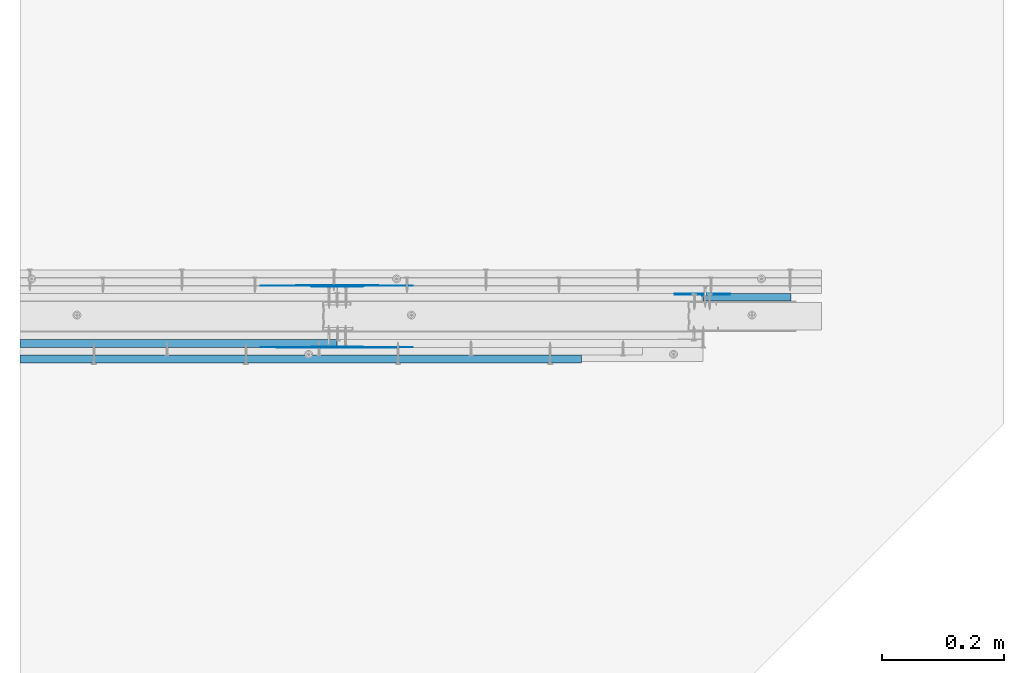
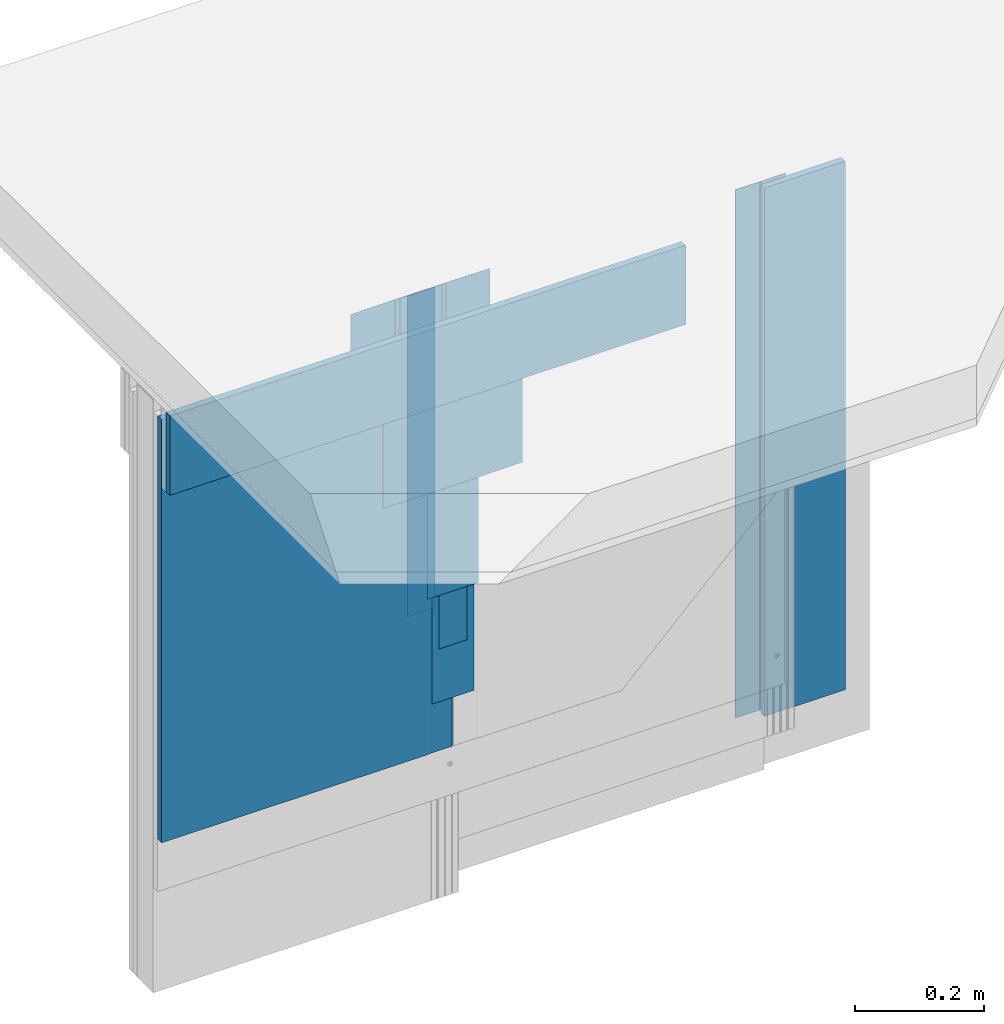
# One storey, part 3 of 60: 12 walls.
"""IFC2X3 building model written with IfcOpenShell, lengths in millimetres."""

from ifc_helpers import new_model, entity, si_unit, converted_unit, direction, frame, origin, origin_with_axes, place, context, project, spatial, faceted_brep, element, save


model = new_model("IFC2X3")

# Units and contexts
model_context = context("Model", 3, precision=1e-05, world=origin(), true_north=direction((0.0, 1.0, 0.0)))
ifc_project = project(units=[si_unit("LENGTHUNIT", "METRE", prefix="MILLI"), si_unit("AREAUNIT", "SQUARE_METRE"), si_unit("VOLUMEUNIT", "CUBIC_METRE"), converted_unit("PLANEANGLEUNIT", "DEGREE", entity("IfcPlaneAngleMeasure", 0.01745), si_unit("PLANEANGLEUNIT", "RADIAN"), dimensions=[0, 0, 0, 0, 0, 0, 0]), si_unit("SOLIDANGLEUNIT", "STERADIAN"), si_unit("MASSUNIT", "GRAM"), si_unit("TIMEUNIT", "SECOND"), si_unit("THERMODYNAMICTEMPERATUREUNIT", "DEGREE_CELSIUS"), si_unit("LUMINOUSINTENSITYUNIT", "LUMEN")], contexts=[model_context])

# Site, building, storey
site_placement = place(None, origin_with_axes())
site = spatial("IfcSite", under=ifc_project, at=site_placement, Name="Default Site", CompositionType="ELEMENT")
building_placement = place(site_placement, origin_with_axes())
building = spatial("IfcBuilding", under=site, at=building_placement, Name="Default Building", CompositionType="ELEMENT")
storey_placement = place(building_placement, origin_with_axes())
storey = spatial("IfcBuildingStorey", under=building, at=storey_placement, Name="Default Building Storey", CompositionType="ELEMENT", Elevation=0.0)

# Walls
wall_1_placement = place(storey_placement, frame((3247.843862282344, 2022.140922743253, 88.64515101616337), z_axis=(0.0, 0.0, -1.0), x_axis=(1.0, 0.0, 0.0)))
element("IfcWall", 1, at=wall_1_placement, inside=storey, Name="Płyta gipsowo-kartonowa RIGIPS PRO (4PRO™)", context=model_context, shape_type="Brep", body=[
    faceted_brep([(145.1967559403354, -12.49999999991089, -277.7777289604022), (145.1967559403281, 9.059988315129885e-11, -277.7777289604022), (145.1967559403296, 9.023892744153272e-11, -1277.779310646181), (145.1967559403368, -12.49999999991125, -1277.779310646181), (0.0, 0.0, -277.7777289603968), (44.99999999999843, -12.50000000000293, -277.7777289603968), (40.99999999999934, -11.50000000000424, -277.7777289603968), (0.9999999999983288, -11.5000000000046, -277.7777289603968), (0.7411809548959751, -11.46592582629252, -277.7777289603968), (0.4999999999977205, -11.3660254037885, -277.7777289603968), (0.2928932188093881, -11.20710678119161, -277.7777289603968), (0.1339745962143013, -11.00000000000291, -277.7777289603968), (0.03407417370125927, -10.7588190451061, -277.7777289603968), (-2.887645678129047e-12, -10.50000000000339, -277.7777289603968), (44.99999999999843, -12.50000000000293, -1277.779310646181), (40.99999999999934, -11.50000000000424, -1277.779310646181), (0.9999999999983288, -11.5000000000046, -1277.779310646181), (0.7411809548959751, -11.46592582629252, -1277.779310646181), (0.4999999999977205, -11.3660254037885, -1277.779310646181), (0.2928932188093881, -11.20710678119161, -1277.779310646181), (0.1339745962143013, -11.00000000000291, -1277.779310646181), (0.03407417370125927, -10.7588190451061, -1277.779310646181), (-2.887645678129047e-12, -10.50000000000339, -1277.779310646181), (0.0, 0.0, -1277.779310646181)], [[[0, 1, 2, 3]], [[4, 1, 0, 5, 6, 7, 8, 9, 10, 11, 12, 13]], [[0, 3, 14, 5]], [[6, 5, 14, 15]], [[7, 6, 15, 16]], [[8, 7, 16, 17]], [[9, 8, 17, 18]], [[10, 9, 18, 19]], [[11, 10, 19, 20]], [[12, 11, 20, 21]], [[13, 12, 21, 22]], [[4, 13, 22, 23]], [[23, 2, 1, 4]], [[14, 3, 2, 23, 22, 21, 20, 19, 18, 17, 16, 15]]]),
])
wall_2_placement = place(storey_placement, frame((3984.303078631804, -1356.465798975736, 1079.246212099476), z_axis=(0.0, 0.0, -1.0), x_axis=(1.0, 0.0, 0.0)))
element("IfcWall", 2, at=wall_2_placement, inside=storey, Name="Dedykowana masa szpachlowa Rigips - konstrukcyjna", context=model_context, shape_type="Brep", body=[
    faceted_brep([(-737.4838396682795, -3387.669590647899, 706.8233321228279), (-737.4592163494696, -3387.356721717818, 706.8233321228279), (-737.4345930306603, -3387.669590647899, 706.8233321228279), (-737.3613293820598, -3387.974755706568, 706.8233321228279), (-737.2412293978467, -3388.264702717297, 706.8233321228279), (-737.0772503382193, -3388.532292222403, 706.8233321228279), (-736.8734299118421, -3388.770935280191, 706.8233321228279), (-736.6347868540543, -3388.974755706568, 706.8233321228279), (-736.3671973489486, -3389.138734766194, 706.8233321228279), (-736.0772503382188, -3389.258834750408, 706.8233321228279), (-735.7720852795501, -3389.332098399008, 706.8233321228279), (-735.4592163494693, -3389.356721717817, 706.8233321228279), (-692.4592163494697, -3389.356721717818, 706.8233321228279), (-691.4592163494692, -3390.556721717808, 706.8233321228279), (-782.4592163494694, -3390.556721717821, 706.8233321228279), (-782.4592163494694, -3389.356721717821, 706.8233321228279), (-739.4592163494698, -3389.356721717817, 706.8233321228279), (-739.146347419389, -3389.332098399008, 706.8233321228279), (-738.8411823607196, -3389.258834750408, 706.8233321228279), (-738.5512353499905, -3389.138734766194, 706.8233321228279), (-738.2836458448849, -3388.974755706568, 706.8233321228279), (-738.045002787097, -3388.770935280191, 706.8233321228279), (-737.8411823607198, -3388.532292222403, 706.8233321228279), (-737.6772033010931, -3388.264702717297, 706.8233321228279), (-737.5571033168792, -3387.974755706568, 706.8233321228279), (-691.4592163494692, -3390.556721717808, -293.178249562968), (-692.4592163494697, -3389.356721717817, -293.178249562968), (-735.4592163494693, -3389.356721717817, -293.178249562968), (-735.7720852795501, -3389.332098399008, -293.178249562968), (-736.0772503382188, -3389.258834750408, -293.178249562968), (-736.3671973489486, -3389.138734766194, -293.178249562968), (-736.6347868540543, -3388.974755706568, -293.178249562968), (-736.8734299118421, -3388.77093528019, -293.178249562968), (-737.0772503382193, -3388.532292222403, -293.178249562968), (-737.2412293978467, -3388.264702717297, -293.178249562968), (-737.3613293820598, -3387.974755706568, -293.178249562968), (-737.4345930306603, -3387.669590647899, -293.178249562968), (-737.4592163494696, -3387.356721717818, -293.178249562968), (-737.4838396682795, -3387.669590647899, -293.178249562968), (-737.5571033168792, -3387.974755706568, -293.178249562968), (-737.6772033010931, -3388.264702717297, -293.178249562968), (-737.8411823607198, -3388.532292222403, -293.178249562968), (-738.045002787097, -3388.77093528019, -293.178249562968), (-738.2836458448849, -3388.974755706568, -293.178249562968), (-738.5512353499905, -3389.138734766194, -293.178249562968), (-738.8411823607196, -3389.258834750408, -293.178249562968), (-739.146347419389, -3389.332098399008, -293.178249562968), (-739.4592163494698, -3389.356721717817, -293.178249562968), (-782.4592163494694, -3389.356721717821, -293.178249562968), (-782.4592163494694, -3390.556721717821, -293.178249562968)], [[[0, 1, 2, 3, 4, 5, 6, 7, 8, 9, 10, 11, 12, 13, 14, 15, 16, 17, 18, 19, 20, 21, 22, 23, 24]], [[25, 26, 27, 28, 29, 30, 31, 32, 33, 34, 35, 36, 37, 38, 39, 40, 41, 42, 43, 44, 45, 46, 47, 48, 49]], [[26, 12, 11, 27]], [[10, 9, 29, 28]], [[28, 27, 11, 10]], [[8, 30, 29, 9]], [[7, 6, 32, 31]], [[31, 30, 8, 7]], [[5, 4, 34, 33]], [[33, 32, 6, 5]], [[3, 35, 34, 4]], [[2, 1, 37, 36]], [[36, 35, 3, 2]], [[0, 24, 39, 38]], [[38, 37, 1, 0]], [[23, 40, 39, 24]], [[22, 21, 42, 41]], [[41, 40, 23, 22]], [[20, 19, 44, 43]], [[43, 42, 21, 20]], [[18, 45, 44, 19]], [[17, 16, 47, 46]], [[46, 45, 18, 17]], [[47, 16, 15, 48]], [[48, 15, 14, 49]], [[49, 14, 13, 25]], [[25, 13, 12, 26]]]),
])
wall_3_placement = place(storey_placement, frame((2646.242430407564, 1958.680077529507, 316.4228799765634), z_axis=(0.0, 0.0, -1.0), x_axis=(-1.0, 6.389333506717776e-13, 0.0)))
element("IfcWall", 3, at=wall_3_placement, inside=storey, Name="Płyta gipsowo-kartonowa RIGIPS PRO (4PRO™)", context=model_context, shape_type="Brep", body=[
    faceted_brep([(521.2172969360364, -12.49999999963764, -249.9999999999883), (521.2172969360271, 3.346059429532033e-10, -249.9999999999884), (521.217296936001, 3.313573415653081e-10, -1050.001581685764), (521.2172969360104, -12.49999999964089, -1050.001581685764), (44.99999999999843, -12.50000000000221, -249.9999999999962), (40.99999999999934, -11.50000000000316, -249.9999999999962), (0.9999999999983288, -11.50000000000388, -249.9999999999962), (0.7411809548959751, -11.46592582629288, -249.9999999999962), (0.4999999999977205, -11.3660254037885, -249.9999999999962), (0.29289321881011, -11.20710678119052, -249.9999999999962), (0.1339745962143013, -11.00000000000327, -249.9999999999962), (0.03407417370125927, -10.7588190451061, -249.9999999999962), (-1.443822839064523e-12, -10.50000000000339, -249.9999999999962), (0.0, 0.0, -249.9999999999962), (44.99999999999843, -12.50000000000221, -1050.001581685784), (40.99999999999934, -11.50000000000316, -1050.001581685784), (0.9999999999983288, -11.50000000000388, -1050.001581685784), (0.7411809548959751, -11.46592582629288, -1050.001581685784), (0.4999999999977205, -11.3660254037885, -1050.001581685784), (0.29289321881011, -11.20710678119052, -1050.001581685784), (0.1339745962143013, -11.00000000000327, -1050.001581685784), (0.03407417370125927, -10.7588190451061, -1050.001581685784), (-1.443822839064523e-12, -10.50000000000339, -1050.001581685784), (0.0, 0.0, -1050.001581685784)], [[[0, 1, 2, 3]], [[0, 4, 5, 6, 7, 8, 9, 10, 11, 12, 13, 1]], [[3, 14, 4, 0]], [[5, 4, 14, 15]], [[6, 5, 15, 16]], [[7, 6, 16, 17]], [[8, 7, 17, 18]], [[9, 8, 18, 19]], [[10, 9, 19, 20]], [[11, 10, 20, 21]], [[12, 11, 21, 22]], [[13, 12, 22, 23]], [[2, 1, 13, 23]], [[14, 3, 2, 23, 22, 21, 20, 19, 18, 17, 16, 15]]]),
])
wall_4_placement = place(storey_placement, frame((-1.489985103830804e-06, 3993.321000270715, -4.000007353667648), z_axis=(0.0, 0.0, 1.0), x_axis=(1.0, 0.0, 0.0)))
element("IfcWall", 4, at=wall_4_placement, inside=storey, Name="Dedykowana masa szpachlowa Rigips - konstrukcyjna", context=model_context, shape_type="Brep", body=[
    faceted_brep([(2672.242429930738, -1946.980077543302, 864.4600646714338), (2672.242429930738, -1946.780077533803, 1370.424463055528), (2672.242429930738, -1946.780077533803, 864.4600646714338), (2672.242429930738, -1946.980077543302, 1370.424463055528), (2684.242431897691, -1947.180077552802, 864.4600646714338), (2684.242431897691, -1946.980077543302, 1370.424463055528), (2684.242431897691, -1946.980077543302, 864.4600646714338), (2684.242431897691, -1947.180077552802, 1370.424463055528), (2604.575765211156, -1947.180077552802, 864.4600646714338), (2609.242428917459, -1947.180077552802, 1370.424463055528), (2604.575765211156, -1947.180077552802, 1370.424463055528), (2609.242428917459, -1947.180077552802, 864.4600646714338), (2622.242431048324, -1946.980077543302, 864.4600646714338), (2609.242428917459, -1946.980077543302, 1370.424463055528), (2609.242428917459, -1946.980077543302, 864.4600646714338), (2622.242431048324, -1946.980077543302, 1370.424463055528), (2622.242431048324, -1946.780077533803, 864.4600646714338), (2622.242431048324, -1946.780077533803, 1370.424463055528), (2692.242429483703, -1946.180077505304, 1370.424463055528), (2601.242431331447, -1946.180077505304, 864.4600646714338), (2601.242431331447, -1946.180077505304, 1370.424463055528), (2692.242429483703, -1946.180077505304, 864.4600646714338), (2688.242428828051, -1947.180077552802, 864.4600646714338), (2688.242428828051, -1947.180077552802, 1370.424463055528)], [[[0, 1, 2]], [[0, 3, 1]], [[4, 5, 6]], [[4, 7, 5]], [[8, 9, 10]], [[8, 11, 9]], [[12, 13, 14]], [[12, 15, 13]], [[6, 3, 0]], [[6, 5, 3]], [[15, 16, 17]], [[15, 12, 16]], [[17, 2, 1]], [[17, 16, 2]], [[14, 9, 11]], [[14, 13, 9]], [[18, 19, 20]], [[18, 21, 19]], [[12, 14, 16]], [[6, 0, 2]], [[22, 4, 6]], [[6, 21, 22]], [[2, 21, 6]], [[16, 21, 2]], [[8, 14, 11]], [[16, 19, 21]], [[14, 19, 16]], [[19, 14, 8]], [[21, 23, 22]], [[21, 18, 23]], [[22, 7, 4]], [[22, 23, 7]], [[20, 17, 18]], [[20, 13, 17]], [[20, 9, 13]], [[9, 20, 10]], [[1, 18, 17]], [[3, 18, 1]], [[5, 18, 3]], [[7, 18, 5]], [[18, 7, 23]], [[17, 13, 15]], [[19, 10, 20]], [[19, 8, 10]]]),
])
wall_5_placement = place(storey_placement, frame((-1.489985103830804e-06, 3993.321000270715, -4.000007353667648), z_axis=(0.0, 0.0, 1.0), x_axis=(1.0, 0.0, 0.0)))
element("IfcWall", 5, at=wall_5_placement, inside=storey, Name="Dedykowana masa szpachlowa Rigips - konstrukcyjna", context=model_context, shape_type="Brep", body=[
    faceted_brep([(2684.242431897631, -1946.980077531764, 1370.424460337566), (2684.242431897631, -1947.180077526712, 662.80848877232), (2684.242431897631, -1947.180077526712, 1370.424460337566), (2684.242431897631, -1946.980077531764, 662.80848877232), (2609.2424289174, -1946.980077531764, 1370.424460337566), (2609.2424289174, -1946.980077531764, 662.80848877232), (2609.2424289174, -1947.180077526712, 1370.424460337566), (2609.2424289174, -1947.180077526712, 662.80848877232)], [[[0, 1, 2]], [[0, 3, 1]], [[4, 3, 0]], [[4, 5, 3]], [[6, 5, 4]], [[6, 7, 5]], [[2, 7, 6]], [[2, 1, 7]], [[0, 6, 4]], [[0, 2, 6]], [[1, 5, 7]], [[1, 3, 5]]]),
])
wall_6_placement = place(storey_placement, frame((-1.489985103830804e-06, 3993.321000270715, -4.000007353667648), z_axis=(0.0, 0.0, 1.0), x_axis=(1.0, 0.0, 0.0)))
element("IfcWall", 6, at=wall_6_placement, inside=storey, Name="Dedykowana masa szpachlowa Rigips - wykończeniowa", context=model_context, shape_type="Brep", body=[
    faceted_brep([(2771.242430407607, -1946.180077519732, 1370.424469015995), (2521.242430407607, -1946.180077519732, 1064.460058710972), (2521.242430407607, -1946.180077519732, 1370.424469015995), (2771.242430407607, -1946.180077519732, 1064.460058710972), (2571.240385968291, -1945.540082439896, 1064.460058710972), (2571.240385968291, -1945.540082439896, 1370.424469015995), (2621.241405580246, -1945.220078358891, 1064.460058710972), (2621.241405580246, -1945.220078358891, 1370.424469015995), (2671.243455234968, -1945.220078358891, 1064.460058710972), (2671.243455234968, -1945.220078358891, 1370.424469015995), (2721.244474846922, -1945.540082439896, 1064.460058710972), (2721.244474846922, -1945.540082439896, 1370.424469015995)], [[[0, 1, 2]], [[0, 3, 1]], [[2, 4, 5]], [[2, 1, 4]], [[6, 5, 4]], [[6, 7, 5]], [[8, 7, 6]], [[8, 9, 7]], [[10, 9, 8]], [[10, 11, 9]], [[3, 11, 10]], [[3, 0, 11]], [[1, 6, 4]], [[1, 8, 6]], [[1, 10, 8]], [[10, 1, 3]], [[7, 2, 5]], [[9, 2, 7]], [[11, 2, 9]], [[2, 11, 0]]]),
])
wall_7_placement = place(storey_placement, frame((-1.489985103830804e-06, 3993.321000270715, -4.000007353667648), z_axis=(0.0, 0.0, 1.0), x_axis=(1.0, 0.0, 0.0)))
element("IfcWall", 7, at=wall_7_placement, inside=storey, Name="Taśma spoinowa RIGIPS", context=model_context, shape_type="Brep", body=[
    faceted_brep([(2672.242430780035, -1946.780077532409, 1370.424448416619), (2672.242430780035, -1946.980077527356, 762.8085006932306), (2672.242430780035, -1946.980077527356, 1370.424448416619), (2672.242430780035, -1946.780077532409, 762.8085006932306), (2622.242430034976, -1946.780077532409, 1370.424448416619), (2622.242430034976, -1946.780077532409, 762.8085006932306), (2622.242430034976, -1946.980077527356, 1370.424448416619), (2622.242430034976, -1946.980077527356, 762.8085006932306)], [[[0, 1, 2]], [[0, 3, 1]], [[4, 3, 0]], [[4, 5, 3]], [[6, 5, 4]], [[6, 7, 5]], [[2, 7, 6]], [[2, 1, 7]], [[0, 6, 4]], [[0, 2, 6]], [[1, 5, 7]], [[1, 3, 5]]]),
])
wall_8_placement = place(storey_placement, frame((-1.489985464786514e-06, 2.815454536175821e-09, -4.000007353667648), z_axis=(0.0, 0.0, 1.0), x_axis=(1.0, 0.0, 0.0)))
element("IfcWall", 8, at=wall_8_placement, inside=storey, Name="Dedykowana masa szpachlowa Rigips - wykończeniowa", context=model_context, shape_type="Brep", body=[
    faceted_brep([(2771.242430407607, 1946.180077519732, 1370.424469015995), (2521.242430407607, 1946.180077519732, 1064.460058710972), (2521.242430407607, 1946.180077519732, 1370.424469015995), (2771.242430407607, 1946.180077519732, 1064.460058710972), (2571.240385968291, 1945.540082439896, 1064.460058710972), (2571.240385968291, 1945.540082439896, 1370.424469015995), (2621.241405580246, 1945.220078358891, 1064.460058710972), (2621.241405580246, 1945.220078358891, 1370.424469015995), (2671.243455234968, 1945.220078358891, 1064.460058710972), (2671.243455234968, 1945.220078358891, 1370.424469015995), (2721.244474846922, 1945.540082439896, 1064.460058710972), (2721.244474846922, 1945.540082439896, 1370.424469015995)], [[[0, 1, 2]], [[0, 3, 1]], [[2, 4, 5]], [[2, 1, 4]], [[6, 5, 4]], [[6, 7, 5]], [[8, 7, 6]], [[8, 9, 7]], [[10, 9, 8]], [[10, 11, 9]], [[3, 11, 10]], [[3, 0, 11]], [[1, 6, 4]], [[1, 8, 6]], [[1, 10, 8]], [[10, 1, 3]], [[7, 2, 5]], [[9, 2, 7]], [[11, 2, 9]], [[2, 11, 0]]]),
])
wall_9_placement = place(storey_placement, frame((-1.489985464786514e-06, 2.815454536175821e-09, -4.000007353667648), z_axis=(0.0, 0.0, 1.0), x_axis=(1.0, 0.0, 0.0)))
element("IfcWall", 9, at=wall_9_placement, inside=storey, Name="Taśma spoinowa RIGIPS", context=model_context, shape_type="Brep", body=[
    faceted_brep([(2672.242430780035, 1946.780077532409, 1370.424448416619), (2672.242430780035, 1946.980077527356, 762.8085006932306), (2672.242430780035, 1946.980077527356, 1370.424448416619), (2672.242430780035, 1946.780077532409, 762.8085006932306), (2622.242430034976, 1946.780077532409, 1370.424448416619), (2622.242430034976, 1946.780077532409, 762.8085006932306), (2622.242430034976, 1946.980077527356, 1370.424448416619), (2622.242430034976, 1946.980077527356, 762.8085006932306)], [[[0, 1, 2]], [[0, 3, 1]], [[4, 3, 0]], [[4, 5, 3]], [[6, 5, 4]], [[6, 7, 5]], [[2, 7, 6]], [[2, 1, 7]], [[0, 6, 4]], [[0, 2, 6]], [[1, 5, 7]], [[1, 3, 5]]]),
])
wall_10_placement = place(storey_placement, frame((-1.489985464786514e-06, 2.815454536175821e-09, -4.000007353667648), z_axis=(0.0, 0.0, 1.0), x_axis=(1.0, 0.0, 0.0)))
element("IfcWall", 10, at=wall_10_placement, inside=storey, Name="Dedykowana masa szpachlowa Rigips - konstrukcyjna", context=model_context, shape_type="Brep", body=[
    faceted_brep([(2672.242429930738, 1946.980077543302, 864.4600646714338), (2672.242429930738, 1946.780077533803, 1370.424463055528), (2672.242429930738, 1946.780077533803, 864.4600646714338), (2672.242429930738, 1946.980077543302, 1370.424463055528), (2684.242431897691, 1947.180077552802, 864.4600646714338), (2684.242431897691, 1946.980077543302, 1370.424463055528), (2684.242431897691, 1946.980077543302, 864.4600646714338), (2684.242431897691, 1947.180077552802, 1370.424463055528), (2604.575765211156, 1947.180077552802, 864.4600646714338), (2609.242428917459, 1947.180077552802, 1370.424463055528), (2604.575765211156, 1947.180077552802, 1370.424463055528), (2609.242428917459, 1947.180077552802, 864.4600646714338), (2622.242431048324, 1946.980077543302, 864.4600646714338), (2609.242428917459, 1946.980077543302, 1370.424463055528), (2609.242428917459, 1946.980077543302, 864.4600646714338), (2622.242431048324, 1946.980077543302, 1370.424463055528), (2622.242431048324, 1946.780077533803, 864.4600646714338), (2622.242431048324, 1946.780077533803, 1370.424463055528), (2692.242429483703, 1946.180077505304, 1370.424463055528), (2601.242431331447, 1946.180077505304, 864.4600646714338), (2601.242431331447, 1946.180077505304, 1370.424463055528), (2692.242429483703, 1946.180077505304, 864.4600646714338), (2688.242428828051, 1947.180077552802, 864.4600646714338), (2688.242428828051, 1947.180077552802, 1370.424463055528)], [[[0, 1, 2]], [[0, 3, 1]], [[4, 5, 6]], [[4, 7, 5]], [[8, 9, 10]], [[8, 11, 9]], [[12, 13, 14]], [[12, 15, 13]], [[6, 3, 0]], [[6, 5, 3]], [[15, 16, 17]], [[15, 12, 16]], [[17, 2, 1]], [[17, 16, 2]], [[14, 9, 11]], [[14, 13, 9]], [[18, 19, 20]], [[18, 21, 19]], [[12, 14, 16]], [[6, 0, 2]], [[22, 4, 6]], [[6, 21, 22]], [[2, 21, 6]], [[16, 21, 2]], [[8, 14, 11]], [[16, 19, 21]], [[14, 19, 16]], [[19, 14, 8]], [[21, 23, 22]], [[21, 18, 23]], [[22, 7, 4]], [[22, 23, 7]], [[20, 17, 18]], [[20, 13, 17]], [[20, 9, 13]], [[9, 20, 10]], [[1, 18, 17]], [[3, 18, 1]], [[5, 18, 3]], [[7, 18, 5]], [[18, 7, 23]], [[17, 13, 15]], [[19, 10, 20]], [[19, 8, 10]]]),
])
wall_11_placement = place(storey_placement, frame((-1.489985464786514e-06, 2.815454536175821e-09, -4.000007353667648), z_axis=(0.0, 0.0, 1.0), x_axis=(1.0, 0.0, 0.0)))
element("IfcWall", 11, at=wall_11_placement, inside=storey, Name="Dedykowana masa szpachlowa Rigips - konstrukcyjna", context=model_context, shape_type="Brep", body=[
    faceted_brep([(2684.242431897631, 1946.980077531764, 1370.424460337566), (2684.242431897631, 1947.180077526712, 662.80848877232), (2684.242431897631, 1947.180077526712, 1370.424460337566), (2684.242431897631, 1946.980077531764, 662.80848877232), (2609.2424289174, 1946.980077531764, 1370.424460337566), (2609.2424289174, 1946.980077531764, 662.80848877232), (2609.2424289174, 1947.180077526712, 1370.424460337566), (2609.2424289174, 1947.180077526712, 662.80848877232)], [[[0, 1, 2]], [[0, 3, 1]], [[4, 3, 0]], [[4, 5, 3]], [[6, 5, 4]], [[6, 7, 5]], [[2, 7, 6]], [[2, 1, 7]], [[0, 6, 4]], [[0, 2, 6]], [[1, 5, 7]], [[1, 3, 5]]]),
])
wall_12_placement = place(storey_placement, frame((1847.247404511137, 1920.680077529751, 1384.621217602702), z_axis=(-1.0, 6.918094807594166e-13, 6.985490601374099e-41), x_axis=(-5.273559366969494e-16, 6.762126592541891e-13, -1.0)))
element("IfcWall", 12, at=wall_12_placement, inside=storey, Name="Płyta gipsowo-kartonowa RIGIPS PRO (4PRO™)", context=model_context, shape_type="Brep", body=[
    faceted_brep([(-4.80324405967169, 2.743263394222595e-11, -277.7777289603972), (-4.80324405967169, -12.50000000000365, -277.7777289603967), (-4.8032440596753, -12.5000000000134, -1201.182244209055), (-4.8032440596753, 1.768682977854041e-11, -1201.182244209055), (145.1967559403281, 8.987797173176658e-11, -277.7777289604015), (145.1967559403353, -12.49999999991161, -277.7777289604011), (145.1967559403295, 9.204370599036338e-11, -1201.182244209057), (145.1967559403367, -12.49999999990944, -1201.182244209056)], [[[0, 1, 2, 3]], [[0, 4, 5, 1]], [[5, 4, 6, 7]], [[2, 1, 5, 7]], [[3, 6, 4, 0]], [[2, 7, 6, 3]]]),
])

save(model, "model.ifc")
